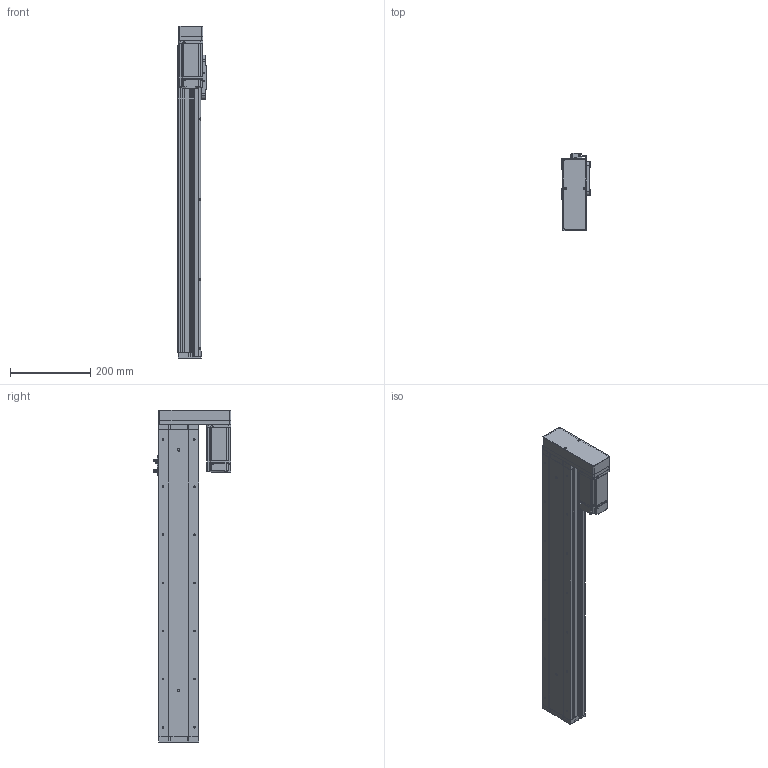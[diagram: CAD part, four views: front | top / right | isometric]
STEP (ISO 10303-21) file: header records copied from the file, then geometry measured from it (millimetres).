
FILE_DESCRIPTION (( 'STEP AP214' ), '1' );
FILE_NAME ('KSD100S-S600-MR-CR.STEP', '2019-09-03T01:19:09', ( '微软用户' ), ( '微软中国' ), 'SwSTEP 2.0', 'SolidWorks 2014', '' );
FILE_SCHEMA (( 'AUTOMOTIVE_DESIGN' ));
Length unit declared in the file: millimetre
Products named in the file (14): MHMD042G1CA_2_03; U倰嫖萇EEㄜSX672; 悵誘欶酘衵殏; 100宽马达安装板连板左右折丝杆; 感应片100宽全封闭; 100宽马达安装板全封闭; 100宽端板全封闭; 100宽滚珠螺姆安装板1防护罩; 100宽滚珠螺姆安装板1; 100遵裔啣揤啣; 100遵裔啣600俴最; 100遵耜啣600俴最佪裝; 100宽底板全封闭600行程丝杆; KSD100S-S600-MR-CR
Assembly tree (16 placements, depth 2):
  KSD100S-S600-MR-CR
    100宽底板全封闭600行程丝杆
    100遵耜啣600俴最佪裝  x2
    100遵裔啣600俴最
    100遵裔啣揤啣  x2
    100宽滚珠螺姆安装板1
    100宽滚珠螺姆安装板1防护罩
    100宽端板全封闭
    100宽马达安装板全封闭
    感应片100宽全封闭
    100宽马达安装板连板左右折丝杆
    悵誘欶酘衵殏
    U倰嫖萇EEㄜSX672  x2
    MHMD042G1CA_2_03
Bounding box: 70 x 193.7 x 828.5 mm (x, y, z)
Volume: 1715356.2 mm3; surface area: 781428.3 mm2
Topology: 15 solids, 16 shells, 1561 faces, 4346 edges, 2764 vertices
Faces by surface type: cylinder 685, plane 629, cone 229, bspline 18
Entity records: 55426 total; most frequent: CARTESIAN_POINT 8687, DIRECTION 7907, ORIENTED_EDGE 7312, EDGE_CURVE 3728, AXIS2_PLACEMENT_3D 2828, VERTEX_POINT 2470, LINE 2251, VECTOR 2251
